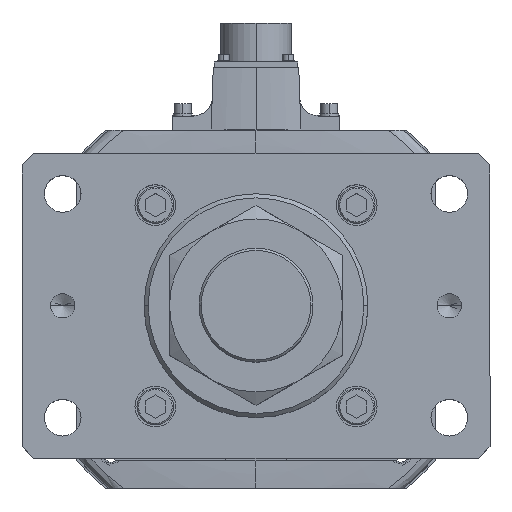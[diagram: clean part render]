
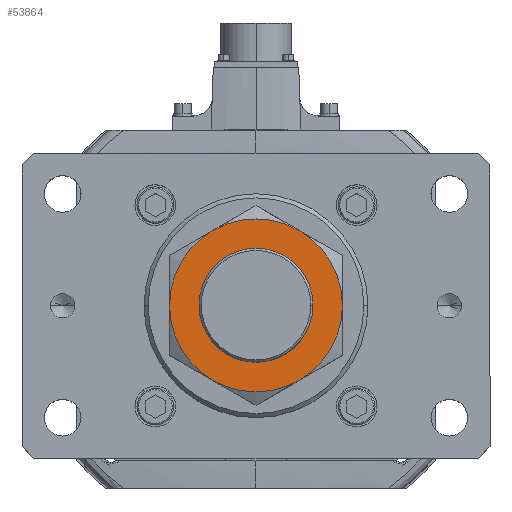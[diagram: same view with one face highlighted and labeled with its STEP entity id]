
A CAD part, top view. The second image highlights one B-rep face of the part: STEP entity #53864.
In plain terms, the highlighted planar face has unit normal (0, 0, 1).
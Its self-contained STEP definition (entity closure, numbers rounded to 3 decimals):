
#738 = DIRECTION ( 'NONE',  ( 1., 0., 0. ) ) ;
#751 = DIRECTION ( 'NONE',  ( 0., 0., -1. ) ) ;
#1782 = CARTESIAN_POINT ( 'NONE',  ( 42.5, 0., 34. ) ) ;
#2082 = VERTEX_POINT ( 'NONE', #25993 ) ;
#3374 = CIRCLE ( 'NONE', #5017, 42.5 ) ;
#4174 = CARTESIAN_POINT ( 'NONE',  ( 0., 0., 34. ) ) ;
#5017 = AXIS2_PLACEMENT_3D ( 'NONE', #40662, #6978, #6259 ) ;
#6259 = DIRECTION ( 'NONE',  ( 1., 0., 0. ) ) ;
#6432 = CARTESIAN_POINT ( 'NONE',  ( -21.25, -36.806, 34. ) ) ;
#6744 = CARTESIAN_POINT ( 'NONE',  ( 0., 0., 34. ) ) ;
#6978 = DIRECTION ( 'NONE',  ( 0., 0., -1. ) ) ;
#9255 = CARTESIAN_POINT ( 'NONE',  ( 0., 0., 34. ) ) ;
#9270 = CARTESIAN_POINT ( 'NONE',  ( 0., 0., 34. ) ) ;
#10980 = EDGE_LOOP ( 'NONE', ( #35704, #37595 ) ) ;
#11533 = AXIS2_PLACEMENT_3D ( 'NONE', #4174, #16288, #24660 ) ;
#11534 = CIRCLE ( 'NONE', #17157, 28. ) ;
#12132 = DIRECTION ( 'NONE',  ( 0., 0., -1. ) ) ;
#12188 = VERTEX_POINT ( 'NONE', #6432 ) ;
#12471 = AXIS2_PLACEMENT_3D ( 'NONE', #49414, #35860, #36559 ) ;
#13273 = DIRECTION ( 'NONE',  ( 0., 0., 1. ) ) ;
#14738 = CIRCLE ( 'NONE', #39336, 28. ) ;
#14969 = VERTEX_POINT ( 'NONE', #45973 ) ;
#15282 = DIRECTION ( 'NONE',  ( 0., 0., -1. ) ) ;
#16288 = DIRECTION ( 'NONE',  ( 0., 0., 1. ) ) ;
#17157 = AXIS2_PLACEMENT_3D ( 'NONE', #9255, #17662, #738 ) ;
#17662 = DIRECTION ( 'NONE',  ( 0., 0., 1. ) ) ;
#18175 = VERTEX_POINT ( 'NONE', #19136 ) ;
#18635 = EDGE_CURVE ( 'NONE', #14969, #49542, #52232, .T. ) ;
#19136 = CARTESIAN_POINT ( 'NONE',  ( 28., 0., 34. ) ) ;
#19288 = EDGE_LOOP ( 'NONE', ( #47911, #49098, #33368, #49111, #52739, #34264 ) ) ;
#19401 = AXIS2_PLACEMENT_3D ( 'NONE', #6744, #41014, #23529 ) ;
#19846 = EDGE_CURVE ( 'NONE', #12188, #49589, #50292, .T. ) ;
#20666 = EDGE_CURVE ( 'NONE', #18175, #2082, #11534, .T. ) ;
#23529 = DIRECTION ( 'NONE',  ( 1., 0., 0. ) ) ;
#24660 = DIRECTION ( 'NONE',  ( 1., 0., 0. ) ) ;
#25382 = PLANE ( 'NONE',  #11533 ) ;
#25993 = CARTESIAN_POINT ( 'NONE',  ( -28., 0., 34. ) ) ;
#26875 = FACE_OUTER_BOUND ( 'NONE', #19288, .T. ) ;
#29451 = EDGE_CURVE ( 'NONE', #49589, #47089, #31474, .T. ) ;
#31474 = CIRCLE ( 'NONE', #49881, 42.5 ) ;
#33058 = EDGE_CURVE ( 'NONE', #46289, #12188, #35416, .T. ) ;
#33368 = ORIENTED_EDGE ( 'NONE', *, *, #40752, .F. ) ;
#34084 = EDGE_CURVE ( 'NONE', #49542, #46289, #3374, .T. ) ;
#34264 = ORIENTED_EDGE ( 'NONE', *, *, #33058, .F. ) ;
#34592 = DIRECTION ( 'NONE',  ( 1., 0., 0. ) ) ;
#35195 = AXIS2_PLACEMENT_3D ( 'NONE', #50114, #12132, #50323 ) ;
#35416 = CIRCLE ( 'NONE', #19401, 42.5 ) ;
#35704 = ORIENTED_EDGE ( 'NONE', *, *, #44393, .F. ) ;
#35860 = DIRECTION ( 'NONE',  ( 0., 0., -1. ) ) ;
#36305 = DIRECTION ( 'NONE',  ( -1., 0., 0. ) ) ;
#36559 = DIRECTION ( 'NONE',  ( 1., 0., 0. ) ) ;
#37030 = CARTESIAN_POINT ( 'NONE',  ( 0., 0., 34. ) ) ;
#37595 = ORIENTED_EDGE ( 'NONE', *, *, #20666, .F. ) ;
#37722 = AXIS2_PLACEMENT_3D ( 'NONE', #9270, #751, #34592 ) ;
#39336 = AXIS2_PLACEMENT_3D ( 'NONE', #51116, #13273, #46601 ) ;
#40662 = CARTESIAN_POINT ( 'NONE',  ( 0., 0., 34. ) ) ;
#40752 = EDGE_CURVE ( 'NONE', #47089, #14969, #53053, .T. ) ;
#41014 = DIRECTION ( 'NONE',  ( 0., 0., -1. ) ) ;
#44393 = EDGE_CURVE ( 'NONE', #2082, #18175, #14738, .T. ) ;
#44708 = CARTESIAN_POINT ( 'NONE',  ( -42.5, 0., 34. ) ) ;
#45973 = CARTESIAN_POINT ( 'NONE',  ( 21.25, 36.806, 34. ) ) ;
#46289 = VERTEX_POINT ( 'NONE', #51551 ) ;
#46601 = DIRECTION ( 'NONE',  ( 1., 0., 0. ) ) ;
#47089 = VERTEX_POINT ( 'NONE', #49190 ) ;
#47911 = ORIENTED_EDGE ( 'NONE', *, *, #34084, .F. ) ;
#49098 = ORIENTED_EDGE ( 'NONE', *, *, #18635, .F. ) ;
#49111 = ORIENTED_EDGE ( 'NONE', *, *, #29451, .F. ) ;
#49190 = CARTESIAN_POINT ( 'NONE',  ( -21.25, 36.806, 34. ) ) ;
#49414 = CARTESIAN_POINT ( 'NONE',  ( 0., 0., 34. ) ) ;
#49542 = VERTEX_POINT ( 'NONE', #1782 ) ;
#49589 = VERTEX_POINT ( 'NONE', #44708 ) ;
#49881 = AXIS2_PLACEMENT_3D ( 'NONE', #37030, #15282, #36305 ) ;
#50114 = CARTESIAN_POINT ( 'NONE',  ( 0., 0., 34. ) ) ;
#50292 = CIRCLE ( 'NONE', #37722, 42.5 ) ;
#50323 = DIRECTION ( 'NONE',  ( 1., 0., 0. ) ) ;
#51116 = CARTESIAN_POINT ( 'NONE',  ( 0., 0., 34. ) ) ;
#51551 = CARTESIAN_POINT ( 'NONE',  ( 21.25, -36.806, 34. ) ) ;
#52232 = CIRCLE ( 'NONE', #35195, 42.5 ) ;
#52739 = ORIENTED_EDGE ( 'NONE', *, *, #19846, .F. ) ;
#53053 = CIRCLE ( 'NONE', #12471, 42.5 ) ;
#53864 = ADVANCED_FACE ( 'NONE', ( #26875, #54861 ), #25382, .T. ) ;
#54861 = FACE_BOUND ( 'NONE', #10980, .T. ) ;
